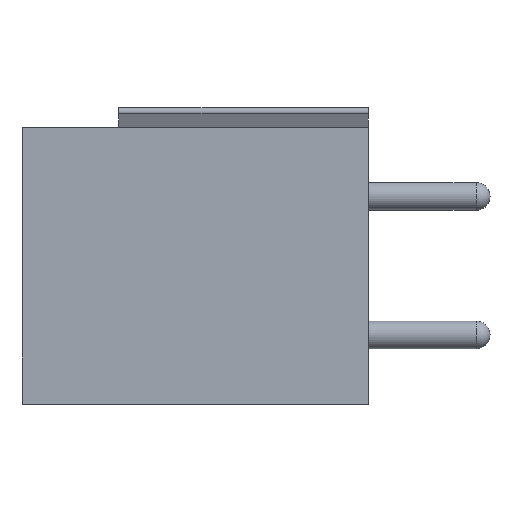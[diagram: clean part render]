
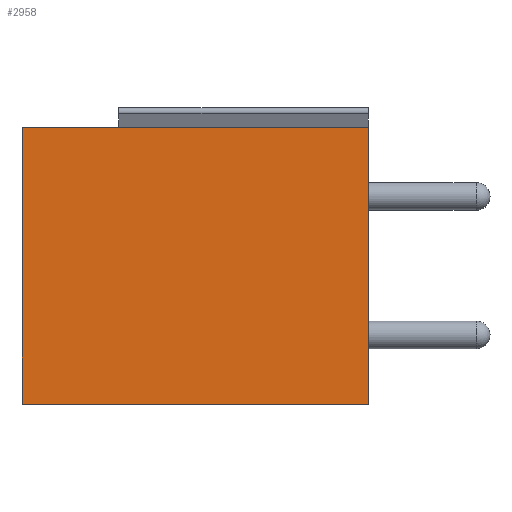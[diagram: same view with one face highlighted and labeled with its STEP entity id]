
A CAD part, left-side view. The second image highlights one B-rep face of the part: STEP entity #2958.
In plain terms, the highlighted planar face has unit normal (-1, 0, 0).
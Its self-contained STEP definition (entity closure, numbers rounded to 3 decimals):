
#48 = DIRECTION ( 'NONE',  ( 0., 0., 1. ) ) ;
#371 = CARTESIAN_POINT ( 'NONE',  ( 0., 12.5, 0. ) ) ;
#413 = CARTESIAN_POINT ( 'NONE',  ( 0., 12.5, 0. ) ) ;
#480 = LINE ( 'NONE', #371, #3984 ) ;
#496 = CARTESIAN_POINT ( 'NONE',  ( 0., 0., 0. ) ) ;
#632 = LINE ( 'NONE', #496, #3052 ) ;
#780 = CARTESIAN_POINT ( 'NONE',  ( 0., 0., 0. ) ) ;
#837 = EDGE_LOOP ( 'NONE', ( #1076, #2287, #4809, #1926 ) ) ;
#861 = DIRECTION ( 'NONE',  ( 0., 0., -1. ) ) ;
#1076 = ORIENTED_EDGE ( 'NONE', *, *, #1703, .F. ) ;
#1117 = VECTOR ( 'NONE', #3483, 1000. ) ;
#1703 = EDGE_CURVE ( 'NONE', #2042, #2855, #480, .T. ) ;
#1926 = ORIENTED_EDGE ( 'NONE', *, *, #3670, .F. ) ;
#2042 = VERTEX_POINT ( 'NONE', #3736 ) ;
#2275 = FACE_OUTER_BOUND ( 'NONE', #837, .T. ) ;
#2287 = ORIENTED_EDGE ( 'NONE', *, *, #2901, .F. ) ;
#2380 = LINE ( 'NONE', #3847, #1117 ) ;
#2512 = VERTEX_POINT ( 'NONE', #3433 ) ;
#2679 = EDGE_CURVE ( 'NONE', #3036, #2512, #2380, .T. ) ;
#2686 = CARTESIAN_POINT ( 'NONE',  ( 0., 12.5, -10. ) ) ;
#2799 = CARTESIAN_POINT ( 'NONE',  ( 0., 12.5, -10. ) ) ;
#2855 = VERTEX_POINT ( 'NONE', #780 ) ;
#2901 = EDGE_CURVE ( 'NONE', #3036, #2042, #4128, .T. ) ;
#2958 = ADVANCED_FACE ( 'NONE', ( #2275 ), #3745, .T. ) ;
#3036 = VERTEX_POINT ( 'NONE', #2799 ) ;
#3052 = VECTOR ( 'NONE', #861, 1000. ) ;
#3389 = DIRECTION ( 'NONE',  ( 0., 0., 1. ) ) ;
#3433 = CARTESIAN_POINT ( 'NONE',  ( 0., 0., -10. ) ) ;
#3483 = DIRECTION ( 'NONE',  ( 0., -1., 0. ) ) ;
#3670 = EDGE_CURVE ( 'NONE', #2855, #2512, #632, .T. ) ;
#3736 = CARTESIAN_POINT ( 'NONE',  ( 0., 12.5, 0. ) ) ;
#3745 = PLANE ( 'NONE',  #3836 ) ;
#3760 = VECTOR ( 'NONE', #3389, 1000. ) ;
#3836 = AXIS2_PLACEMENT_3D ( 'NONE', #413, #4498, #48 ) ;
#3847 = CARTESIAN_POINT ( 'NONE',  ( 0., 12.5, -10. ) ) ;
#3984 = VECTOR ( 'NONE', #4043, 1000. ) ;
#4043 = DIRECTION ( 'NONE',  ( 0., -1., 0. ) ) ;
#4128 = LINE ( 'NONE', #2686, #3760 ) ;
#4498 = DIRECTION ( 'NONE',  ( -1., 0., 0. ) ) ;
#4809 = ORIENTED_EDGE ( 'NONE', *, *, #2679, .T. ) ;
